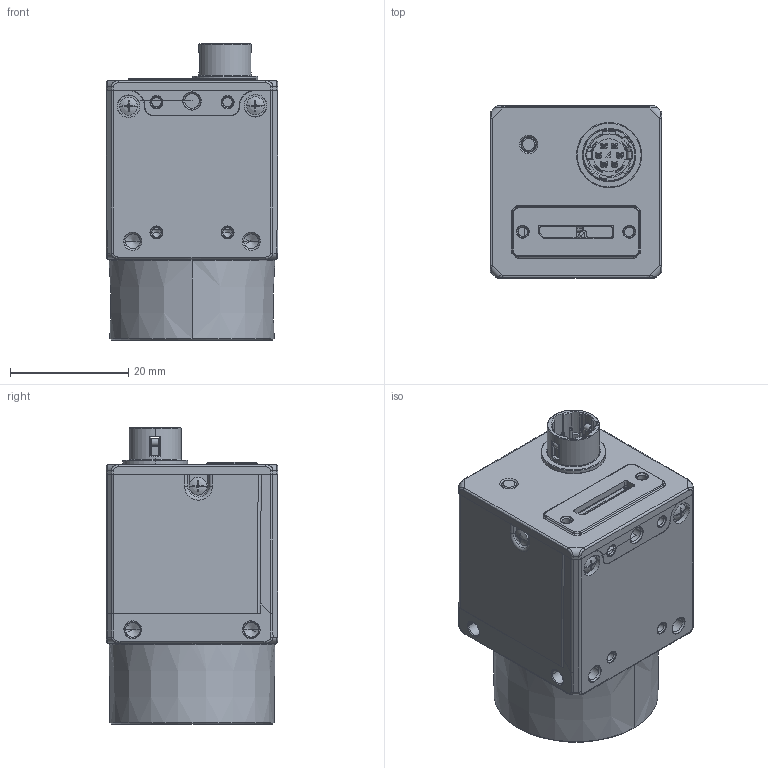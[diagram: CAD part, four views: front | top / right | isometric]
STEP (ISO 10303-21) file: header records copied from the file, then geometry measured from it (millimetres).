
FILE_DESCRIPTION((''),'2;1');
FILE_NAME('PRT0003','2023-05-23T20:11:47',('xueqinyuan'),(''),'CREO PARAMETRIC BY PTC INC, 2020044','CREO PARAMETRIC BY PTC INC, 2020044','');
FILE_SCHEMA(('CONFIG_CONTROL_DESIGN'));
Products named in the file (1): PRT0003
Bounding box: 29.03 x 29 x 50.15 mm (x, y, z)
Volume: 2079.2 mm3; surface area: 22464.5 mm2
Topology: 8 solids, 70 shells, 3754 faces, 10478 edges, 6762 vertices
Faces by surface type: plane 1789, cylinder 1194, bspline 317, cone 240, torus 167, sphere 46, extrusion 1
Entity records: 155546 total; most frequent: CARTESIAN_POINT 62023, ORIENTED_EDGE 20603, DIRECTION 17993, EDGE_CURVE 10447, VERTEX_POINT 6762, AXIS2_PLACEMENT_3D 6134, VECTOR 5725, LINE 5724
